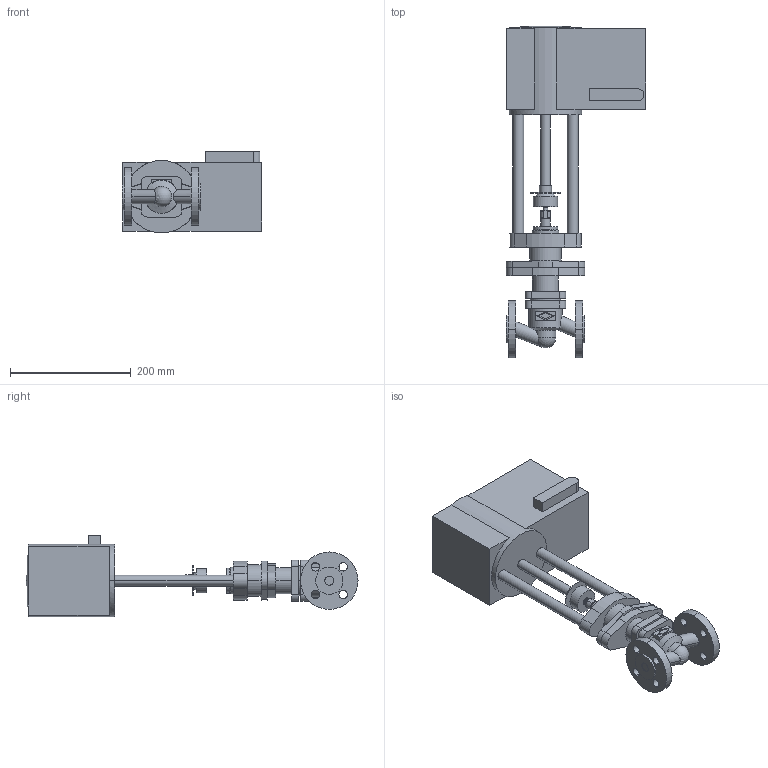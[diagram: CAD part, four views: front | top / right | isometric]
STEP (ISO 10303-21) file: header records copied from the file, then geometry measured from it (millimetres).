
FILE_DESCRIPTION(('Creo Elements/Direct Modeling STEP Export'),'2;1');
FILE_NAME('c000005068.stp','2013-06-04T 9:45:47',(''),(''),'Creo Elements/Direct Modeling STEP processor for AP203 (Solid Model)','Creo Elements/Direct Modeling 17.0D 15-Jul-2011 (C) Parametric Technology GmbH','');
FILE_SCHEMA(('CONFIG_CONTROL_DESIGN'));
Length unit declared in the file: millimetre
Products named in the file (5): AnbauteileVentil; DN15; FR1.2
Assembly tree (2 placements, depth 2):
  AnbauteileVentil
    AnbauteileVentil
  DN15
  FR1.2
    FR1.2
Bounding box: 231 x 549.5 x 135.5 mm (x, y, z)
Volume: 4704225.7 mm3; surface area: 321751.8 mm2
Topology: 3 solids, 4 shells, 228 faces, 541 edges, 343 vertices
Faces by surface type: cylinder 100, plane 84, cone 25, torus 16, sphere 3
Entity records: 6878 total; most frequent: CARTESIAN_POINT 1338, ORIENTED_EDGE 1070, DIRECTION 1002, EDGE_CURVE 535, AXIS2_PLACEMENT_3D 378, VERTEX_POINT 343, EDGE_LOOP 274, VECTOR 246
